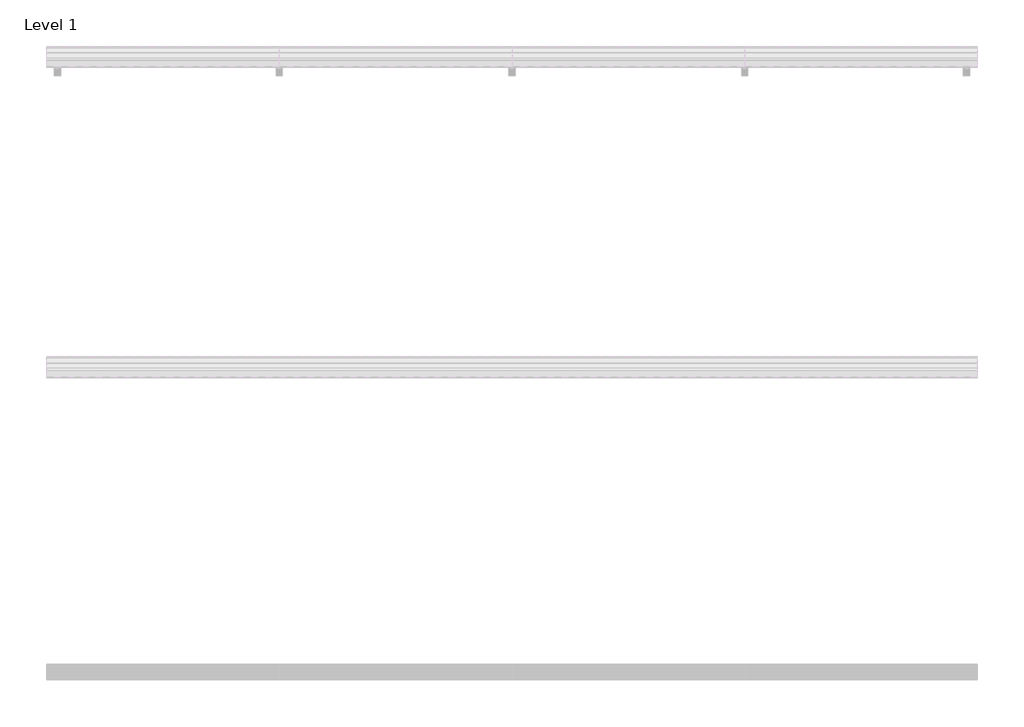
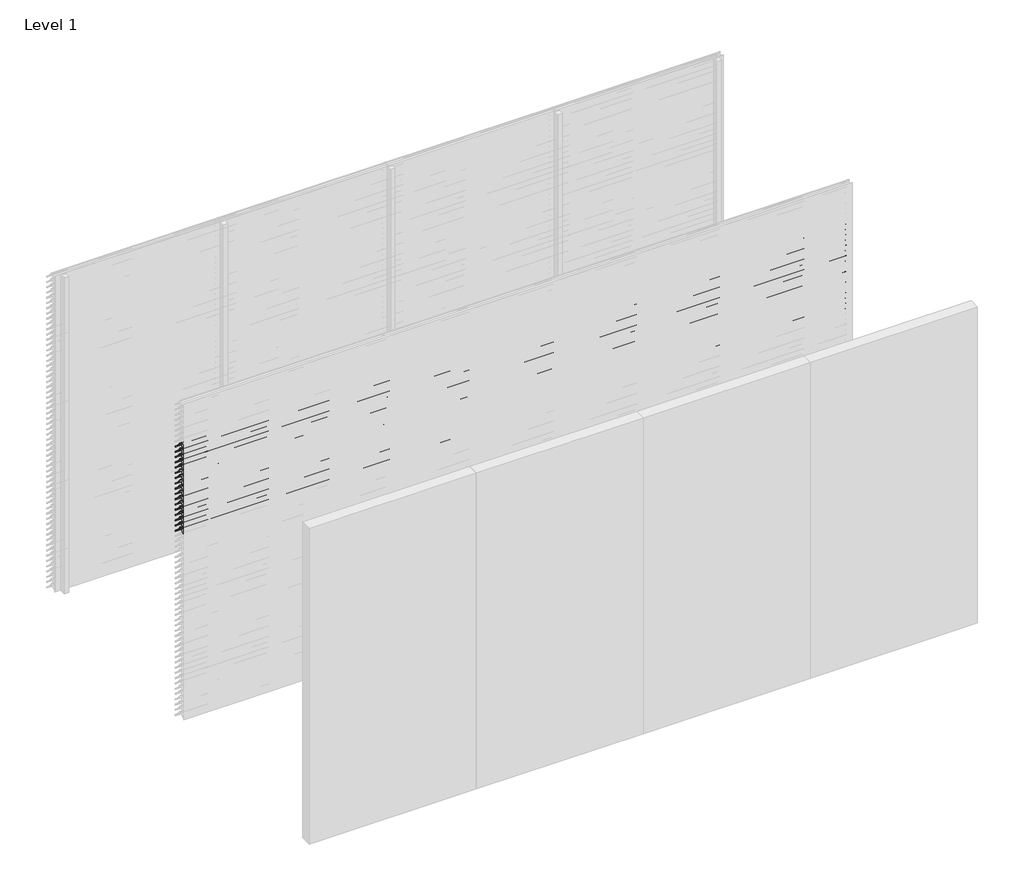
# One storey, part 72 of 173: 17 proxies.
"""IFC4 building model written with IfcOpenShell, lengths in millimetres."""

from ifc_helpers import new_model, si_unit, point, frame, frame_2d, origin, place, context, project, spatial, polyline, circle_curve, trimmed, segment, composite_curve, outline, extrude, element, save

model = new_model("IFC4")

# Units and contexts
model_context = context("Model", 3, world=origin())
ifc_project = project(units=[si_unit("LENGTHUNIT", "METRE", prefix="MILLI")], contexts=[model_context])

# Site, building, storey
site = spatial("IfcSite", under=ifc_project)
building = spatial("IfcBuilding", under=site)
storey = spatial("IfcBuildingStorey", under=building, Name="Level 1", Elevation=0.0)

# Proxies
placement = place(None, origin())
element("IfcBuildingElementProxy", 1, Name="Wall Sweeps", at=placement, inside=storey, context=model_context, shape_type="SweptSolid", body=[
    extrude(outline(composite_curve([segment(polyline([(-31998.0, 2559.1474905), (-31998.0, 2561.6227417)]), True, "CONTINUOUS"), segment(trimmed(circle_curve(frame_2d((-31951.2682172, 2516.2200208)), 65.1557103), [point((-31998.0, 2561.6227417))], [point((-31954.4014323, 2581.3003524))], False, "CARTESIAN"), True, "CONTINUOUS"), segment(polyline([(-31954.4014323, 2581.3003524), (-31934.8315836, 2581.3003524)]), True, "CONTINUOUS"), segment(trimmed(circle_curve(frame_2d((-31732.7329489, 2728.5533172)), 250.0545817), [point((-31934.8315836, 2581.3003524))], [point((-31941.4452143, 2590.8344583))], False, "CARTESIAN"), True, "CONTINUOUS"), segment(trimmed(circle_curve(frame_2d((-31953.2981792, 2585.1737835)), 13.1352966), [point((-31941.4452143, 2590.8344583))], [point((-31953.8171475, 2598.298824))], True, "CARTESIAN"), True, "CONTINUOUS"), segment(polyline([(-31953.8171475, 2598.298824), (-31953.8171475, 2600.0)]), True, "CONTINUOUS"), segment(trimmed(circle_curve(frame_2d((-31953.2981792, 2585.1737835)), 14.8352966), [point((-31953.8171475, 2600.0))], [point((-31939.9637661, 2591.6760487))], False, "CARTESIAN"), True, "CONTINUOUS"), segment(trimmed(circle_curve(frame_2d((-31732.7329489, 2728.5533172)), 248.3545817), [point((-31939.9637661, 2591.6760487))], [point((-31873.8787895, 2524.2059416))], True, "CARTESIAN"), True, "CONTINUOUS"), segment(trimmed(circle_curve(frame_2d((-31883.8147537, 2511.6649442)), 16.0), [point((-31873.8787895, 2524.2059416))], [point((-31867.8648347, 2510.4))], False, "CARTESIAN"), True, "CONTINUOUS"), segment(polyline([(-31867.8648347, 2510.4), (-31869.6712069, 2510.4)]), True, "CONTINUOUS"), segment(trimmed(circle_curve(frame_2d((-31883.8147537, 2511.6649442)), 14.2), [point((-31869.6712069, 2510.4))], [point((-31874.9518628, 2522.7594998))], True, "CARTESIAN"), True, "CONTINUOUS"), segment(trimmed(circle_curve(frame_2d((-31732.7329489, 2728.5533172)), 250.1545817), [point((-31874.9518628, 2522.7594998))], [point((-31933.7064024, 2579.6003524))], False, "CARTESIAN"), True, "CONTINUOUS"), segment(polyline([(-31933.7064024, 2579.6003524), (-31954.3602632, 2579.6003524)]), True, "CONTINUOUS"), segment(trimmed(circle_curve(frame_2d((-31951.2682172, 2516.2200208)), 63.4557103), [point((-31954.3602632, 2579.6003524))], [point((-31998.0, 2559.1474905))], True, "CARTESIAN"), True, "CONTINUOUS")], self_intersect=False)), frame((0.0, 0.0, 0.0), z_axis=(1.0, 0.0, 0.0), x_axis=(0.0, 1.0, 0.0)), (0.0, 0.0, 1.0), 6000.0),
])
element("IfcBuildingElementProxy", 2, Name="Wall Sweeps", at=placement, inside=storey, context=model_context, shape_type="SweptSolid", body=[
    extrude(outline(composite_curve([segment(polyline([(-31998.0, 2509.1474905), (-31998.0, 2511.6227417)]), True, "CONTINUOUS"), segment(trimmed(circle_curve(frame_2d((-31951.2682172, 2466.2200208)), 65.1557103), [point((-31998.0, 2511.6227417))], [point((-31954.4014323, 2531.3003524))], False, "CARTESIAN"), True, "CONTINUOUS"), segment(polyline([(-31954.4014323, 2531.3003524), (-31934.8315836, 2531.3003524)]), True, "CONTINUOUS"), segment(trimmed(circle_curve(frame_2d((-31732.7329489, 2678.5533172)), 250.0545817), [point((-31934.8315836, 2531.3003524))], [point((-31941.4452143, 2540.8344583))], False, "CARTESIAN"), True, "CONTINUOUS"), segment(trimmed(circle_curve(frame_2d((-31953.2981792, 2535.1737835)), 13.1352966), [point((-31941.4452143, 2540.8344583))], [point((-31953.8171475, 2548.298824))], True, "CARTESIAN"), True, "CONTINUOUS"), segment(polyline([(-31953.8171475, 2548.298824), (-31953.8171475, 2550.0)]), True, "CONTINUOUS"), segment(trimmed(circle_curve(frame_2d((-31953.2981792, 2535.1737835)), 14.8352966), [point((-31953.8171475, 2550.0))], [point((-31939.9637661, 2541.6760487))], False, "CARTESIAN"), True, "CONTINUOUS"), segment(trimmed(circle_curve(frame_2d((-31732.7329489, 2678.5533172)), 248.3545817), [point((-31939.9637661, 2541.6760487))], [point((-31873.8787895, 2474.2059416))], True, "CARTESIAN"), True, "CONTINUOUS"), segment(trimmed(circle_curve(frame_2d((-31883.8147537, 2461.6649442)), 16.0), [point((-31873.8787895, 2474.2059416))], [point((-31867.8648347, 2460.4))], False, "CARTESIAN"), True, "CONTINUOUS"), segment(polyline([(-31867.8648347, 2460.4), (-31869.6712069, 2460.4)]), True, "CONTINUOUS"), segment(trimmed(circle_curve(frame_2d((-31883.8147537, 2461.6649442)), 14.2), [point((-31869.6712069, 2460.4))], [point((-31874.9518628, 2472.7594998))], True, "CARTESIAN"), True, "CONTINUOUS"), segment(trimmed(circle_curve(frame_2d((-31732.7329489, 2678.5533172)), 250.1545817), [point((-31874.9518628, 2472.7594998))], [point((-31933.7064024, 2529.6003524))], False, "CARTESIAN"), True, "CONTINUOUS"), segment(polyline([(-31933.7064024, 2529.6003524), (-31954.3602632, 2529.6003524)]), True, "CONTINUOUS"), segment(trimmed(circle_curve(frame_2d((-31951.2682172, 2466.2200208)), 63.4557103), [point((-31954.3602632, 2529.6003524))], [point((-31998.0, 2509.1474905))], True, "CARTESIAN"), True, "CONTINUOUS")], self_intersect=False)), frame((0.0, 0.0, 0.0), z_axis=(1.0, 0.0, 0.0), x_axis=(0.0, 1.0, 0.0)), (0.0, 0.0, 1.0), 6000.0),
])
element("IfcBuildingElementProxy", 3, Name="Wall Sweeps", at=placement, inside=storey, context=model_context, shape_type="SweptSolid", body=[
    extrude(outline(composite_curve([segment(polyline([(-31998.0, 2459.1474905), (-31998.0, 2461.6227417)]), True, "CONTINUOUS"), segment(trimmed(circle_curve(frame_2d((-31951.2682172, 2416.2200208)), 65.1557103), [point((-31998.0, 2461.6227417))], [point((-31954.4014323, 2481.3003524))], False, "CARTESIAN"), True, "CONTINUOUS"), segment(polyline([(-31954.4014323, 2481.3003524), (-31934.8315836, 2481.3003524)]), True, "CONTINUOUS"), segment(trimmed(circle_curve(frame_2d((-31732.7329489, 2628.5533172)), 250.0545817), [point((-31934.8315836, 2481.3003524))], [point((-31941.4452143, 2490.8344583))], False, "CARTESIAN"), True, "CONTINUOUS"), segment(trimmed(circle_curve(frame_2d((-31953.2981792, 2485.1737835)), 13.1352966), [point((-31941.4452143, 2490.8344583))], [point((-31953.8171475, 2498.298824))], True, "CARTESIAN"), True, "CONTINUOUS"), segment(polyline([(-31953.8171475, 2498.298824), (-31953.8171475, 2500.0)]), True, "CONTINUOUS"), segment(trimmed(circle_curve(frame_2d((-31953.2981792, 2485.1737835)), 14.8352966), [point((-31953.8171475, 2500.0))], [point((-31939.9637661, 2491.6760487))], False, "CARTESIAN"), True, "CONTINUOUS"), segment(trimmed(circle_curve(frame_2d((-31732.7329489, 2628.5533172)), 248.3545817), [point((-31939.9637661, 2491.6760487))], [point((-31873.8787895, 2424.2059416))], True, "CARTESIAN"), True, "CONTINUOUS"), segment(trimmed(circle_curve(frame_2d((-31883.8147537, 2411.6649442)), 16.0), [point((-31873.8787895, 2424.2059416))], [point((-31867.8648347, 2410.4))], False, "CARTESIAN"), True, "CONTINUOUS"), segment(polyline([(-31867.8648347, 2410.4), (-31869.6712069, 2410.4)]), True, "CONTINUOUS"), segment(trimmed(circle_curve(frame_2d((-31883.8147537, 2411.6649442)), 14.2), [point((-31869.6712069, 2410.4))], [point((-31874.9518628, 2422.7594998))], True, "CARTESIAN"), True, "CONTINUOUS"), segment(trimmed(circle_curve(frame_2d((-31732.7329489, 2628.5533172)), 250.1545817), [point((-31874.9518628, 2422.7594998))], [point((-31933.7064024, 2479.6003524))], False, "CARTESIAN"), True, "CONTINUOUS"), segment(polyline([(-31933.7064024, 2479.6003524), (-31954.3602632, 2479.6003524)]), True, "CONTINUOUS"), segment(trimmed(circle_curve(frame_2d((-31951.2682172, 2416.2200208)), 63.4557103), [point((-31954.3602632, 2479.6003524))], [point((-31998.0, 2459.1474905))], True, "CARTESIAN"), True, "CONTINUOUS")], self_intersect=False)), frame((0.0, 0.0, 0.0), z_axis=(1.0, 0.0, 0.0), x_axis=(0.0, 1.0, 0.0)), (0.0, 0.0, 1.0), 6000.0),
])
element("IfcBuildingElementProxy", 4, Name="Wall Sweeps", at=placement, inside=storey, context=model_context, shape_type="SweptSolid", body=[
    extrude(outline(composite_curve([segment(polyline([(-31998.0, 2409.1474905), (-31998.0, 2411.6227417)]), True, "CONTINUOUS"), segment(trimmed(circle_curve(frame_2d((-31951.2682172, 2366.2200208)), 65.1557103), [point((-31998.0, 2411.6227417))], [point((-31954.4014323, 2431.3003524))], False, "CARTESIAN"), True, "CONTINUOUS"), segment(polyline([(-31954.4014323, 2431.3003524), (-31934.8315836, 2431.3003524)]), True, "CONTINUOUS"), segment(trimmed(circle_curve(frame_2d((-31732.7329489, 2578.5533172)), 250.0545817), [point((-31934.8315836, 2431.3003524))], [point((-31941.4452143, 2440.8344583))], False, "CARTESIAN"), True, "CONTINUOUS"), segment(trimmed(circle_curve(frame_2d((-31953.2981792, 2435.1737835)), 13.1352966), [point((-31941.4452143, 2440.8344583))], [point((-31953.8171475, 2448.298824))], True, "CARTESIAN"), True, "CONTINUOUS"), segment(polyline([(-31953.8171475, 2448.298824), (-31953.8171475, 2450.0)]), True, "CONTINUOUS"), segment(trimmed(circle_curve(frame_2d((-31953.2981792, 2435.1737835)), 14.8352966), [point((-31953.8171475, 2450.0))], [point((-31939.9637661, 2441.6760487))], False, "CARTESIAN"), True, "CONTINUOUS"), segment(trimmed(circle_curve(frame_2d((-31732.7329489, 2578.5533172)), 248.3545817), [point((-31939.9637661, 2441.6760487))], [point((-31873.8787895, 2374.2059416))], True, "CARTESIAN"), True, "CONTINUOUS"), segment(trimmed(circle_curve(frame_2d((-31883.8147537, 2361.6649442)), 16.0), [point((-31873.8787895, 2374.2059416))], [point((-31867.8648347, 2360.4))], False, "CARTESIAN"), True, "CONTINUOUS"), segment(polyline([(-31867.8648347, 2360.4), (-31869.6712069, 2360.4)]), True, "CONTINUOUS"), segment(trimmed(circle_curve(frame_2d((-31883.8147537, 2361.6649442)), 14.2), [point((-31869.6712069, 2360.4))], [point((-31874.9518628, 2372.7594998))], True, "CARTESIAN"), True, "CONTINUOUS"), segment(trimmed(circle_curve(frame_2d((-31732.7329489, 2578.5533172)), 250.1545817), [point((-31874.9518628, 2372.7594998))], [point((-31933.7064024, 2429.6003524))], False, "CARTESIAN"), True, "CONTINUOUS"), segment(polyline([(-31933.7064024, 2429.6003524), (-31954.3602632, 2429.6003524)]), True, "CONTINUOUS"), segment(trimmed(circle_curve(frame_2d((-31951.2682172, 2366.2200208)), 63.4557103), [point((-31954.3602632, 2429.6003524))], [point((-31998.0, 2409.1474905))], True, "CARTESIAN"), True, "CONTINUOUS")], self_intersect=False)), frame((0.0, 0.0, 0.0), z_axis=(1.0, 0.0, 0.0), x_axis=(0.0, 1.0, 0.0)), (0.0, 0.0, 1.0), 6000.0),
])
element("IfcBuildingElementProxy", 5, Name="Wall Sweeps", at=placement, inside=storey, context=model_context, shape_type="SweptSolid", body=[
    extrude(outline(composite_curve([segment(polyline([(-31998.0, 2359.1474905), (-31998.0, 2361.6227417)]), True, "CONTINUOUS"), segment(trimmed(circle_curve(frame_2d((-31951.2682172, 2316.2200208)), 65.1557103), [point((-31998.0, 2361.6227417))], [point((-31954.4014323, 2381.3003524))], False, "CARTESIAN"), True, "CONTINUOUS"), segment(polyline([(-31954.4014323, 2381.3003524), (-31934.8315836, 2381.3003524)]), True, "CONTINUOUS"), segment(trimmed(circle_curve(frame_2d((-31732.7329489, 2528.5533172)), 250.0545817), [point((-31934.8315836, 2381.3003524))], [point((-31941.4452143, 2390.8344583))], False, "CARTESIAN"), True, "CONTINUOUS"), segment(trimmed(circle_curve(frame_2d((-31953.2981792, 2385.1737835)), 13.1352966), [point((-31941.4452143, 2390.8344583))], [point((-31953.8171475, 2398.298824))], True, "CARTESIAN"), True, "CONTINUOUS"), segment(polyline([(-31953.8171475, 2398.298824), (-31953.8171475, 2400.0)]), True, "CONTINUOUS"), segment(trimmed(circle_curve(frame_2d((-31953.2981792, 2385.1737835)), 14.8352966), [point((-31953.8171475, 2400.0))], [point((-31939.9637661, 2391.6760487))], False, "CARTESIAN"), True, "CONTINUOUS"), segment(trimmed(circle_curve(frame_2d((-31732.7329489, 2528.5533172)), 248.3545817), [point((-31939.9637661, 2391.6760487))], [point((-31873.8787895, 2324.2059416))], True, "CARTESIAN"), True, "CONTINUOUS"), segment(trimmed(circle_curve(frame_2d((-31883.8147537, 2311.6649442)), 16.0), [point((-31873.8787895, 2324.2059416))], [point((-31867.8648347, 2310.4))], False, "CARTESIAN"), True, "CONTINUOUS"), segment(polyline([(-31867.8648347, 2310.4), (-31869.6712069, 2310.4)]), True, "CONTINUOUS"), segment(trimmed(circle_curve(frame_2d((-31883.8147537, 2311.6649442)), 14.2), [point((-31869.6712069, 2310.4))], [point((-31874.9518628, 2322.7594998))], True, "CARTESIAN"), True, "CONTINUOUS"), segment(trimmed(circle_curve(frame_2d((-31732.7329489, 2528.5533172)), 250.1545817), [point((-31874.9518628, 2322.7594998))], [point((-31933.7064024, 2379.6003524))], False, "CARTESIAN"), True, "CONTINUOUS"), segment(polyline([(-31933.7064024, 2379.6003524), (-31954.3602632, 2379.6003524)]), True, "CONTINUOUS"), segment(trimmed(circle_curve(frame_2d((-31951.2682172, 2316.2200208)), 63.4557103), [point((-31954.3602632, 2379.6003524))], [point((-31998.0, 2359.1474905))], True, "CARTESIAN"), True, "CONTINUOUS")], self_intersect=False)), frame((0.0, 0.0, 0.0), z_axis=(1.0, 0.0, 0.0), x_axis=(0.0, 1.0, 0.0)), (0.0, 0.0, 1.0), 6000.0),
])
element("IfcBuildingElementProxy", 6, Name="Wall Sweeps", at=placement, inside=storey, context=model_context, shape_type="SweptSolid", body=[
    extrude(outline(composite_curve([segment(polyline([(-31998.0, 2309.1474905), (-31998.0, 2311.6227417)]), True, "CONTINUOUS"), segment(trimmed(circle_curve(frame_2d((-31951.2682172, 2266.2200208)), 65.1557103), [point((-31998.0, 2311.6227417))], [point((-31954.4014323, 2331.3003524))], False, "CARTESIAN"), True, "CONTINUOUS"), segment(polyline([(-31954.4014323, 2331.3003524), (-31934.8315836, 2331.3003524)]), True, "CONTINUOUS"), segment(trimmed(circle_curve(frame_2d((-31732.7329489, 2478.5533172)), 250.0545817), [point((-31934.8315836, 2331.3003524))], [point((-31941.4452143, 2340.8344583))], False, "CARTESIAN"), True, "CONTINUOUS"), segment(trimmed(circle_curve(frame_2d((-31953.2981792, 2335.1737835)), 13.1352966), [point((-31941.4452143, 2340.8344583))], [point((-31953.8171475, 2348.298824))], True, "CARTESIAN"), True, "CONTINUOUS"), segment(polyline([(-31953.8171475, 2348.298824), (-31953.8171475, 2350.0)]), True, "CONTINUOUS"), segment(trimmed(circle_curve(frame_2d((-31953.2981792, 2335.1737835)), 14.8352966), [point((-31953.8171475, 2350.0))], [point((-31939.9637661, 2341.6760487))], False, "CARTESIAN"), True, "CONTINUOUS"), segment(trimmed(circle_curve(frame_2d((-31732.7329489, 2478.5533172)), 248.3545817), [point((-31939.9637661, 2341.6760487))], [point((-31873.8787895, 2274.2059416))], True, "CARTESIAN"), True, "CONTINUOUS"), segment(trimmed(circle_curve(frame_2d((-31883.8147537, 2261.6649442)), 16.0), [point((-31873.8787895, 2274.2059416))], [point((-31867.8648347, 2260.4))], False, "CARTESIAN"), True, "CONTINUOUS"), segment(polyline([(-31867.8648347, 2260.4), (-31869.6712069, 2260.4)]), True, "CONTINUOUS"), segment(trimmed(circle_curve(frame_2d((-31883.8147537, 2261.6649442)), 14.2), [point((-31869.6712069, 2260.4))], [point((-31874.9518628, 2272.7594998))], True, "CARTESIAN"), True, "CONTINUOUS"), segment(trimmed(circle_curve(frame_2d((-31732.7329489, 2478.5533172)), 250.1545817), [point((-31874.9518628, 2272.7594998))], [point((-31933.7064024, 2329.6003524))], False, "CARTESIAN"), True, "CONTINUOUS"), segment(polyline([(-31933.7064024, 2329.6003524), (-31954.3602632, 2329.6003524)]), True, "CONTINUOUS"), segment(trimmed(circle_curve(frame_2d((-31951.2682172, 2266.2200208)), 63.4557103), [point((-31954.3602632, 2329.6003524))], [point((-31998.0, 2309.1474905))], True, "CARTESIAN"), True, "CONTINUOUS")], self_intersect=False)), frame((0.0, 0.0, 0.0), z_axis=(1.0, 0.0, 0.0), x_axis=(0.0, 1.0, 0.0)), (0.0, 0.0, 1.0), 6000.0),
])
element("IfcBuildingElementProxy", 7, Name="Wall Sweeps", at=placement, inside=storey, context=model_context, shape_type="SweptSolid", body=[
    extrude(outline(composite_curve([segment(polyline([(-31998.0, 2259.1474905), (-31998.0, 2261.6227417)]), True, "CONTINUOUS"), segment(trimmed(circle_curve(frame_2d((-31951.2682172, 2216.2200208)), 65.1557103), [point((-31998.0, 2261.6227417))], [point((-31954.4014323, 2281.3003524))], False, "CARTESIAN"), True, "CONTINUOUS"), segment(polyline([(-31954.4014323, 2281.3003524), (-31934.8315836, 2281.3003524)]), True, "CONTINUOUS"), segment(trimmed(circle_curve(frame_2d((-31732.7329489, 2428.5533172)), 250.0545817), [point((-31934.8315836, 2281.3003524))], [point((-31941.4452143, 2290.8344583))], False, "CARTESIAN"), True, "CONTINUOUS"), segment(trimmed(circle_curve(frame_2d((-31953.2981792, 2285.1737835)), 13.1352966), [point((-31941.4452143, 2290.8344583))], [point((-31953.8171475, 2298.298824))], True, "CARTESIAN"), True, "CONTINUOUS"), segment(polyline([(-31953.8171475, 2298.298824), (-31953.8171475, 2300.0)]), True, "CONTINUOUS"), segment(trimmed(circle_curve(frame_2d((-31953.2981792, 2285.1737835)), 14.8352966), [point((-31953.8171475, 2300.0))], [point((-31939.9637661, 2291.6760487))], False, "CARTESIAN"), True, "CONTINUOUS"), segment(trimmed(circle_curve(frame_2d((-31732.7329489, 2428.5533172)), 248.3545817), [point((-31939.9637661, 2291.6760487))], [point((-31873.8787895, 2224.2059416))], True, "CARTESIAN"), True, "CONTINUOUS"), segment(trimmed(circle_curve(frame_2d((-31883.8147537, 2211.6649442)), 16.0), [point((-31873.8787895, 2224.2059416))], [point((-31867.8648347, 2210.4))], False, "CARTESIAN"), True, "CONTINUOUS"), segment(polyline([(-31867.8648347, 2210.4), (-31869.6712069, 2210.4)]), True, "CONTINUOUS"), segment(trimmed(circle_curve(frame_2d((-31883.8147537, 2211.6649442)), 14.2), [point((-31869.6712069, 2210.4))], [point((-31874.9518628, 2222.7594998))], True, "CARTESIAN"), True, "CONTINUOUS"), segment(trimmed(circle_curve(frame_2d((-31732.7329489, 2428.5533172)), 250.1545817), [point((-31874.9518628, 2222.7594998))], [point((-31933.7064024, 2279.6003524))], False, "CARTESIAN"), True, "CONTINUOUS"), segment(polyline([(-31933.7064024, 2279.6003524), (-31954.3602632, 2279.6003524)]), True, "CONTINUOUS"), segment(trimmed(circle_curve(frame_2d((-31951.2682172, 2216.2200208)), 63.4557103), [point((-31954.3602632, 2279.6003524))], [point((-31998.0, 2259.1474905))], True, "CARTESIAN"), True, "CONTINUOUS")], self_intersect=False)), frame((0.0, 0.0, 0.0), z_axis=(1.0, 0.0, 0.0), x_axis=(0.0, 1.0, 0.0)), (0.0, 0.0, 1.0), 6000.0),
])
element("IfcBuildingElementProxy", 8, Name="Wall Sweeps", at=placement, inside=storey, context=model_context, shape_type="SweptSolid", body=[
    extrude(outline(composite_curve([segment(polyline([(-31998.0, 2209.1474905), (-31998.0, 2211.6227417)]), True, "CONTINUOUS"), segment(trimmed(circle_curve(frame_2d((-31951.2682172, 2166.2200208)), 65.1557103), [point((-31998.0, 2211.6227417))], [point((-31954.4014323, 2231.3003524))], False, "CARTESIAN"), True, "CONTINUOUS"), segment(polyline([(-31954.4014323, 2231.3003524), (-31934.8315836, 2231.3003524)]), True, "CONTINUOUS"), segment(trimmed(circle_curve(frame_2d((-31732.7329489, 2378.5533172)), 250.0545817), [point((-31934.8315836, 2231.3003524))], [point((-31941.4452143, 2240.8344583))], False, "CARTESIAN"), True, "CONTINUOUS"), segment(trimmed(circle_curve(frame_2d((-31953.2981792, 2235.1737835)), 13.1352966), [point((-31941.4452143, 2240.8344583))], [point((-31953.8171475, 2248.298824))], True, "CARTESIAN"), True, "CONTINUOUS"), segment(polyline([(-31953.8171475, 2248.298824), (-31953.8171475, 2250.0)]), True, "CONTINUOUS"), segment(trimmed(circle_curve(frame_2d((-31953.2981792, 2235.1737835)), 14.8352966), [point((-31953.8171475, 2250.0))], [point((-31939.9637661, 2241.6760487))], False, "CARTESIAN"), True, "CONTINUOUS"), segment(trimmed(circle_curve(frame_2d((-31732.7329489, 2378.5533172)), 248.3545817), [point((-31939.9637661, 2241.6760487))], [point((-31873.8787895, 2174.2059416))], True, "CARTESIAN"), True, "CONTINUOUS"), segment(trimmed(circle_curve(frame_2d((-31883.8147537, 2161.6649442)), 16.0), [point((-31873.8787895, 2174.2059416))], [point((-31867.8648347, 2160.4))], False, "CARTESIAN"), True, "CONTINUOUS"), segment(polyline([(-31867.8648347, 2160.4), (-31869.6712069, 2160.4)]), True, "CONTINUOUS"), segment(trimmed(circle_curve(frame_2d((-31883.8147537, 2161.6649442)), 14.2), [point((-31869.6712069, 2160.4))], [point((-31874.9518628, 2172.7594998))], True, "CARTESIAN"), True, "CONTINUOUS"), segment(trimmed(circle_curve(frame_2d((-31732.7329489, 2378.5533172)), 250.1545817), [point((-31874.9518628, 2172.7594998))], [point((-31933.7064024, 2229.6003524))], False, "CARTESIAN"), True, "CONTINUOUS"), segment(polyline([(-31933.7064024, 2229.6003524), (-31954.3602632, 2229.6003524)]), True, "CONTINUOUS"), segment(trimmed(circle_curve(frame_2d((-31951.2682172, 2166.2200208)), 63.4557103), [point((-31954.3602632, 2229.6003524))], [point((-31998.0, 2209.1474905))], True, "CARTESIAN"), True, "CONTINUOUS")], self_intersect=False)), frame((0.0, 0.0, 0.0), z_axis=(1.0, 0.0, 0.0), x_axis=(0.0, 1.0, 0.0)), (0.0, 0.0, 1.0), 6000.0),
])
element("IfcBuildingElementProxy", 9, Name="Wall Sweeps", at=placement, inside=storey, context=model_context, shape_type="SweptSolid", body=[
    extrude(outline(composite_curve([segment(polyline([(-31998.0, 2159.1474905), (-31998.0, 2161.6227417)]), True, "CONTINUOUS"), segment(trimmed(circle_curve(frame_2d((-31951.2682172, 2116.2200208)), 65.1557103), [point((-31998.0, 2161.6227417))], [point((-31954.4014323, 2181.3003524))], False, "CARTESIAN"), True, "CONTINUOUS"), segment(polyline([(-31954.4014323, 2181.3003524), (-31934.8315836, 2181.3003524)]), True, "CONTINUOUS"), segment(trimmed(circle_curve(frame_2d((-31732.7329489, 2328.5533172)), 250.0545817), [point((-31934.8315836, 2181.3003524))], [point((-31941.4452143, 2190.8344583))], False, "CARTESIAN"), True, "CONTINUOUS"), segment(trimmed(circle_curve(frame_2d((-31953.2981792, 2185.1737835)), 13.1352966), [point((-31941.4452143, 2190.8344583))], [point((-31953.8171475, 2198.298824))], True, "CARTESIAN"), True, "CONTINUOUS"), segment(polyline([(-31953.8171475, 2198.298824), (-31953.8171475, 2200.0)]), True, "CONTINUOUS"), segment(trimmed(circle_curve(frame_2d((-31953.2981792, 2185.1737835)), 14.8352966), [point((-31953.8171475, 2200.0))], [point((-31939.9637661, 2191.6760487))], False, "CARTESIAN"), True, "CONTINUOUS"), segment(trimmed(circle_curve(frame_2d((-31732.7329489, 2328.5533172)), 248.3545817), [point((-31939.9637661, 2191.6760487))], [point((-31873.8787895, 2124.2059416))], True, "CARTESIAN"), True, "CONTINUOUS"), segment(trimmed(circle_curve(frame_2d((-31883.8147537, 2111.6649442)), 16.0), [point((-31873.8787895, 2124.2059416))], [point((-31867.8648347, 2110.4))], False, "CARTESIAN"), True, "CONTINUOUS"), segment(polyline([(-31867.8648347, 2110.4), (-31869.6712069, 2110.4)]), True, "CONTINUOUS"), segment(trimmed(circle_curve(frame_2d((-31883.8147537, 2111.6649442)), 14.2), [point((-31869.6712069, 2110.4))], [point((-31874.9518628, 2122.7594998))], True, "CARTESIAN"), True, "CONTINUOUS"), segment(trimmed(circle_curve(frame_2d((-31732.7329489, 2328.5533172)), 250.1545817), [point((-31874.9518628, 2122.7594998))], [point((-31933.7064024, 2179.6003524))], False, "CARTESIAN"), True, "CONTINUOUS"), segment(polyline([(-31933.7064024, 2179.6003524), (-31954.3602632, 2179.6003524)]), True, "CONTINUOUS"), segment(trimmed(circle_curve(frame_2d((-31951.2682172, 2116.2200208)), 63.4557103), [point((-31954.3602632, 2179.6003524))], [point((-31998.0, 2159.1474905))], True, "CARTESIAN"), True, "CONTINUOUS")], self_intersect=False)), frame((0.0, 0.0, 0.0), z_axis=(1.0, 0.0, 0.0), x_axis=(0.0, 1.0, 0.0)), (0.0, 0.0, 1.0), 6000.0),
])
element("IfcBuildingElementProxy", 10, Name="Wall Sweeps", at=placement, inside=storey, context=model_context, shape_type="SweptSolid", body=[
    extrude(outline(composite_curve([segment(polyline([(-31998.0, 2109.1474905), (-31998.0, 2111.6227417)]), True, "CONTINUOUS"), segment(trimmed(circle_curve(frame_2d((-31951.2682172, 2066.2200208)), 65.1557103), [point((-31998.0, 2111.6227417))], [point((-31954.4014323, 2131.3003524))], False, "CARTESIAN"), True, "CONTINUOUS"), segment(polyline([(-31954.4014323, 2131.3003524), (-31934.8315836, 2131.3003524)]), True, "CONTINUOUS"), segment(trimmed(circle_curve(frame_2d((-31732.7329489, 2278.5533172)), 250.0545817), [point((-31934.8315836, 2131.3003524))], [point((-31941.4452143, 2140.8344583))], False, "CARTESIAN"), True, "CONTINUOUS"), segment(trimmed(circle_curve(frame_2d((-31953.2981792, 2135.1737835)), 13.1352966), [point((-31941.4452143, 2140.8344583))], [point((-31953.8171475, 2148.298824))], True, "CARTESIAN"), True, "CONTINUOUS"), segment(polyline([(-31953.8171475, 2148.298824), (-31953.8171475, 2150.0)]), True, "CONTINUOUS"), segment(trimmed(circle_curve(frame_2d((-31953.2981792, 2135.1737835)), 14.8352966), [point((-31953.8171475, 2150.0))], [point((-31939.9637661, 2141.6760487))], False, "CARTESIAN"), True, "CONTINUOUS"), segment(trimmed(circle_curve(frame_2d((-31732.7329489, 2278.5533172)), 248.3545817), [point((-31939.9637661, 2141.6760487))], [point((-31873.8787895, 2074.2059416))], True, "CARTESIAN"), True, "CONTINUOUS"), segment(trimmed(circle_curve(frame_2d((-31883.8147537, 2061.6649442)), 16.0), [point((-31873.8787895, 2074.2059416))], [point((-31867.8648347, 2060.4))], False, "CARTESIAN"), True, "CONTINUOUS"), segment(polyline([(-31867.8648347, 2060.4), (-31869.6712069, 2060.4)]), True, "CONTINUOUS"), segment(trimmed(circle_curve(frame_2d((-31883.8147537, 2061.6649442)), 14.2), [point((-31869.6712069, 2060.4))], [point((-31874.9518628, 2072.7594998))], True, "CARTESIAN"), True, "CONTINUOUS"), segment(trimmed(circle_curve(frame_2d((-31732.7329489, 2278.5533172)), 250.1545817), [point((-31874.9518628, 2072.7594998))], [point((-31933.7064024, 2129.6003524))], False, "CARTESIAN"), True, "CONTINUOUS"), segment(polyline([(-31933.7064024, 2129.6003524), (-31954.3602632, 2129.6003524)]), True, "CONTINUOUS"), segment(trimmed(circle_curve(frame_2d((-31951.2682172, 2066.2200208)), 63.4557103), [point((-31954.3602632, 2129.6003524))], [point((-31998.0, 2109.1474905))], True, "CARTESIAN"), True, "CONTINUOUS")], self_intersect=False)), frame((0.0, 0.0, 0.0), z_axis=(1.0, 0.0, 0.0), x_axis=(0.0, 1.0, 0.0)), (0.0, 0.0, 1.0), 6000.0),
])
element("IfcBuildingElementProxy", 11, Name="Wall Sweeps", at=placement, inside=storey, context=model_context, shape_type="SweptSolid", body=[
    extrude(outline(composite_curve([segment(polyline([(-31998.0, 2059.1474905), (-31998.0, 2061.6227417)]), True, "CONTINUOUS"), segment(trimmed(circle_curve(frame_2d((-31951.2682172, 2016.2200208)), 65.1557103), [point((-31998.0, 2061.6227417))], [point((-31954.4014323, 2081.3003524))], False, "CARTESIAN"), True, "CONTINUOUS"), segment(polyline([(-31954.4014323, 2081.3003524), (-31934.8315836, 2081.3003524)]), True, "CONTINUOUS"), segment(trimmed(circle_curve(frame_2d((-31732.7329489, 2228.5533172)), 250.0545817), [point((-31934.8315836, 2081.3003524))], [point((-31941.4452143, 2090.8344583))], False, "CARTESIAN"), True, "CONTINUOUS"), segment(trimmed(circle_curve(frame_2d((-31953.2981792, 2085.1737835)), 13.1352966), [point((-31941.4452143, 2090.8344583))], [point((-31953.8171475, 2098.298824))], True, "CARTESIAN"), True, "CONTINUOUS"), segment(polyline([(-31953.8171475, 2098.298824), (-31953.8171475, 2100.0)]), True, "CONTINUOUS"), segment(trimmed(circle_curve(frame_2d((-31953.2981792, 2085.1737835)), 14.8352966), [point((-31953.8171475, 2100.0))], [point((-31939.9637661, 2091.6760487))], False, "CARTESIAN"), True, "CONTINUOUS"), segment(trimmed(circle_curve(frame_2d((-31732.7329489, 2228.5533172)), 248.3545817), [point((-31939.9637661, 2091.6760487))], [point((-31873.8787895, 2024.2059416))], True, "CARTESIAN"), True, "CONTINUOUS"), segment(trimmed(circle_curve(frame_2d((-31883.8147537, 2011.6649442)), 16.0), [point((-31873.8787895, 2024.2059416))], [point((-31867.8648347, 2010.4))], False, "CARTESIAN"), True, "CONTINUOUS"), segment(polyline([(-31867.8648347, 2010.4), (-31869.6712069, 2010.4)]), True, "CONTINUOUS"), segment(trimmed(circle_curve(frame_2d((-31883.8147537, 2011.6649442)), 14.2), [point((-31869.6712069, 2010.4))], [point((-31874.9518628, 2022.7594998))], True, "CARTESIAN"), True, "CONTINUOUS"), segment(trimmed(circle_curve(frame_2d((-31732.7329489, 2228.5533172)), 250.1545817), [point((-31874.9518628, 2022.7594998))], [point((-31933.7064024, 2079.6003524))], False, "CARTESIAN"), True, "CONTINUOUS"), segment(polyline([(-31933.7064024, 2079.6003524), (-31954.3602632, 2079.6003524)]), True, "CONTINUOUS"), segment(trimmed(circle_curve(frame_2d((-31951.2682172, 2016.2200208)), 63.4557103), [point((-31954.3602632, 2079.6003524))], [point((-31998.0, 2059.1474905))], True, "CARTESIAN"), True, "CONTINUOUS")], self_intersect=False)), frame((0.0, 0.0, 0.0), z_axis=(1.0, 0.0, 0.0), x_axis=(0.0, 1.0, 0.0)), (0.0, 0.0, 1.0), 6000.0),
])
element("IfcBuildingElementProxy", 12, Name="Wall Sweeps", at=placement, inside=storey, context=model_context, shape_type="SweptSolid", body=[
    extrude(outline(composite_curve([segment(polyline([(-31998.0, 2009.1474905), (-31998.0, 2011.6227417)]), True, "CONTINUOUS"), segment(trimmed(circle_curve(frame_2d((-31951.2682172, 1966.2200208)), 65.1557103), [point((-31998.0, 2011.6227417))], [point((-31954.4014323, 2031.3003524))], False, "CARTESIAN"), True, "CONTINUOUS"), segment(polyline([(-31954.4014323, 2031.3003524), (-31934.8315836, 2031.3003524)]), True, "CONTINUOUS"), segment(trimmed(circle_curve(frame_2d((-31732.7329489, 2178.5533172)), 250.0545817), [point((-31934.8315836, 2031.3003524))], [point((-31941.4452143, 2040.8344583))], False, "CARTESIAN"), True, "CONTINUOUS"), segment(trimmed(circle_curve(frame_2d((-31953.2981792, 2035.1737835)), 13.1352966), [point((-31941.4452143, 2040.8344583))], [point((-31953.8171475, 2048.298824))], True, "CARTESIAN"), True, "CONTINUOUS"), segment(polyline([(-31953.8171475, 2048.298824), (-31953.8171475, 2050.0)]), True, "CONTINUOUS"), segment(trimmed(circle_curve(frame_2d((-31953.2981792, 2035.1737835)), 14.8352966), [point((-31953.8171475, 2050.0))], [point((-31939.9637661, 2041.6760487))], False, "CARTESIAN"), True, "CONTINUOUS"), segment(trimmed(circle_curve(frame_2d((-31732.7329489, 2178.5533172)), 248.3545817), [point((-31939.9637661, 2041.6760487))], [point((-31873.8787895, 1974.2059416))], True, "CARTESIAN"), True, "CONTINUOUS"), segment(trimmed(circle_curve(frame_2d((-31883.8147537, 1961.6649442)), 16.0), [point((-31873.8787895, 1974.2059416))], [point((-31867.8648347, 1960.4))], False, "CARTESIAN"), True, "CONTINUOUS"), segment(polyline([(-31867.8648347, 1960.4), (-31869.6712069, 1960.4)]), True, "CONTINUOUS"), segment(trimmed(circle_curve(frame_2d((-31883.8147537, 1961.6649442)), 14.2), [point((-31869.6712069, 1960.4))], [point((-31874.9518628, 1972.7594998))], True, "CARTESIAN"), True, "CONTINUOUS"), segment(trimmed(circle_curve(frame_2d((-31732.7329489, 2178.5533172)), 250.1545817), [point((-31874.9518628, 1972.7594998))], [point((-31933.7064024, 2029.6003524))], False, "CARTESIAN"), True, "CONTINUOUS"), segment(polyline([(-31933.7064024, 2029.6003524), (-31954.3602632, 2029.6003524)]), True, "CONTINUOUS"), segment(trimmed(circle_curve(frame_2d((-31951.2682172, 1966.2200208)), 63.4557103), [point((-31954.3602632, 2029.6003524))], [point((-31998.0, 2009.1474905))], True, "CARTESIAN"), True, "CONTINUOUS")], self_intersect=False)), frame((0.0, 0.0, 0.0), z_axis=(1.0, 0.0, 0.0), x_axis=(0.0, 1.0, 0.0)), (0.0, 0.0, 1.0), 6000.0),
])
element("IfcBuildingElementProxy", 13, Name="Wall Sweeps", at=placement, inside=storey, context=model_context, shape_type="SweptSolid", body=[
    extrude(outline(composite_curve([segment(polyline([(-31998.0, 1959.1474905), (-31998.0, 1961.6227417)]), True, "CONTINUOUS"), segment(trimmed(circle_curve(frame_2d((-31951.2682172, 1916.2200208)), 65.1557103), [point((-31998.0, 1961.6227417))], [point((-31954.4014323, 1981.3003524))], False, "CARTESIAN"), True, "CONTINUOUS"), segment(polyline([(-31954.4014323, 1981.3003524), (-31934.8315836, 1981.3003524)]), True, "CONTINUOUS"), segment(trimmed(circle_curve(frame_2d((-31732.7329489, 2128.5533172)), 250.0545817), [point((-31934.8315836, 1981.3003524))], [point((-31941.4452143, 1990.8344583))], False, "CARTESIAN"), True, "CONTINUOUS"), segment(trimmed(circle_curve(frame_2d((-31953.2981792, 1985.1737835)), 13.1352966), [point((-31941.4452143, 1990.8344583))], [point((-31953.8171475, 1998.298824))], True, "CARTESIAN"), True, "CONTINUOUS"), segment(polyline([(-31953.8171475, 1998.298824), (-31953.8171475, 2000.0)]), True, "CONTINUOUS"), segment(trimmed(circle_curve(frame_2d((-31953.2981792, 1985.1737835)), 14.8352966), [point((-31953.8171475, 2000.0))], [point((-31939.9637661, 1991.6760487))], False, "CARTESIAN"), True, "CONTINUOUS"), segment(trimmed(circle_curve(frame_2d((-31732.7329489, 2128.5533172)), 248.3545817), [point((-31939.9637661, 1991.6760487))], [point((-31873.8787895, 1924.2059416))], True, "CARTESIAN"), True, "CONTINUOUS"), segment(trimmed(circle_curve(frame_2d((-31883.8147537, 1911.6649442)), 16.0), [point((-31873.8787895, 1924.2059416))], [point((-31867.8648347, 1910.4))], False, "CARTESIAN"), True, "CONTINUOUS"), segment(polyline([(-31867.8648347, 1910.4), (-31869.6712069, 1910.4)]), True, "CONTINUOUS"), segment(trimmed(circle_curve(frame_2d((-31883.8147537, 1911.6649442)), 14.2), [point((-31869.6712069, 1910.4))], [point((-31874.9518628, 1922.7594998))], True, "CARTESIAN"), True, "CONTINUOUS"), segment(trimmed(circle_curve(frame_2d((-31732.7329489, 2128.5533172)), 250.1545817), [point((-31874.9518628, 1922.7594998))], [point((-31933.7064024, 1979.6003524))], False, "CARTESIAN"), True, "CONTINUOUS"), segment(polyline([(-31933.7064024, 1979.6003524), (-31954.3602632, 1979.6003524)]), True, "CONTINUOUS"), segment(trimmed(circle_curve(frame_2d((-31951.2682172, 1916.2200208)), 63.4557103), [point((-31954.3602632, 1979.6003524))], [point((-31998.0, 1959.1474905))], True, "CARTESIAN"), True, "CONTINUOUS")], self_intersect=False)), frame((0.0, 0.0, 0.0), z_axis=(1.0, 0.0, 0.0), x_axis=(0.0, 1.0, 0.0)), (0.0, 0.0, 1.0), 6000.0),
])
element("IfcBuildingElementProxy", 14, Name="Wall Sweeps", at=placement, inside=storey, context=model_context, shape_type="SweptSolid", body=[
    extrude(outline(composite_curve([segment(polyline([(-31998.0, 1909.1474905), (-31998.0, 1911.6227417)]), True, "CONTINUOUS"), segment(trimmed(circle_curve(frame_2d((-31951.2682172, 1866.2200208)), 65.1557103), [point((-31998.0, 1911.6227417))], [point((-31954.4014323, 1931.3003524))], False, "CARTESIAN"), True, "CONTINUOUS"), segment(polyline([(-31954.4014323, 1931.3003524), (-31934.8315836, 1931.3003524)]), True, "CONTINUOUS"), segment(trimmed(circle_curve(frame_2d((-31732.7329489, 2078.5533172)), 250.0545817), [point((-31934.8315836, 1931.3003524))], [point((-31941.4452143, 1940.8344583))], False, "CARTESIAN"), True, "CONTINUOUS"), segment(trimmed(circle_curve(frame_2d((-31953.2981792, 1935.1737835)), 13.1352966), [point((-31941.4452143, 1940.8344583))], [point((-31953.8171475, 1948.298824))], True, "CARTESIAN"), True, "CONTINUOUS"), segment(polyline([(-31953.8171475, 1948.298824), (-31953.8171475, 1950.0)]), True, "CONTINUOUS"), segment(trimmed(circle_curve(frame_2d((-31953.2981792, 1935.1737835)), 14.8352966), [point((-31953.8171475, 1950.0))], [point((-31939.9637661, 1941.6760487))], False, "CARTESIAN"), True, "CONTINUOUS"), segment(trimmed(circle_curve(frame_2d((-31732.7329489, 2078.5533172)), 248.3545817), [point((-31939.9637661, 1941.6760487))], [point((-31873.8787895, 1874.2059416))], True, "CARTESIAN"), True, "CONTINUOUS"), segment(trimmed(circle_curve(frame_2d((-31883.8147537, 1861.6649442)), 16.0), [point((-31873.8787895, 1874.2059416))], [point((-31867.8648347, 1860.4))], False, "CARTESIAN"), True, "CONTINUOUS"), segment(polyline([(-31867.8648347, 1860.4), (-31869.6712069, 1860.4)]), True, "CONTINUOUS"), segment(trimmed(circle_curve(frame_2d((-31883.8147537, 1861.6649442)), 14.2), [point((-31869.6712069, 1860.4))], [point((-31874.9518628, 1872.7594998))], True, "CARTESIAN"), True, "CONTINUOUS"), segment(trimmed(circle_curve(frame_2d((-31732.7329489, 2078.5533172)), 250.1545817), [point((-31874.9518628, 1872.7594998))], [point((-31933.7064024, 1929.6003524))], False, "CARTESIAN"), True, "CONTINUOUS"), segment(polyline([(-31933.7064024, 1929.6003524), (-31954.3602632, 1929.6003524)]), True, "CONTINUOUS"), segment(trimmed(circle_curve(frame_2d((-31951.2682172, 1866.2200208)), 63.4557103), [point((-31954.3602632, 1929.6003524))], [point((-31998.0, 1909.1474905))], True, "CARTESIAN"), True, "CONTINUOUS")], self_intersect=False)), frame((0.0, 0.0, 0.0), z_axis=(1.0, 0.0, 0.0), x_axis=(0.0, 1.0, 0.0)), (0.0, 0.0, 1.0), 6000.0),
])
element("IfcBuildingElementProxy", 15, Name="Wall Sweeps", at=placement, inside=storey, context=model_context, shape_type="SweptSolid", body=[
    extrude(outline(composite_curve([segment(polyline([(-31998.0, 1859.1474905), (-31998.0, 1861.6227417)]), True, "CONTINUOUS"), segment(trimmed(circle_curve(frame_2d((-31951.2682172, 1816.2200208)), 65.1557103), [point((-31998.0, 1861.6227417))], [point((-31954.4014323, 1881.3003524))], False, "CARTESIAN"), True, "CONTINUOUS"), segment(polyline([(-31954.4014323, 1881.3003524), (-31934.8315836, 1881.3003524)]), True, "CONTINUOUS"), segment(trimmed(circle_curve(frame_2d((-31732.7329489, 2028.5533172)), 250.0545817), [point((-31934.8315836, 1881.3003524))], [point((-31941.4452143, 1890.8344583))], False, "CARTESIAN"), True, "CONTINUOUS"), segment(trimmed(circle_curve(frame_2d((-31953.2981792, 1885.1737835)), 13.1352966), [point((-31941.4452143, 1890.8344583))], [point((-31953.8171475, 1898.298824))], True, "CARTESIAN"), True, "CONTINUOUS"), segment(polyline([(-31953.8171475, 1898.298824), (-31953.8171475, 1900.0)]), True, "CONTINUOUS"), segment(trimmed(circle_curve(frame_2d((-31953.2981792, 1885.1737835)), 14.8352966), [point((-31953.8171475, 1900.0))], [point((-31939.9637661, 1891.6760487))], False, "CARTESIAN"), True, "CONTINUOUS"), segment(trimmed(circle_curve(frame_2d((-31732.7329489, 2028.5533172)), 248.3545817), [point((-31939.9637661, 1891.6760487))], [point((-31873.8787895, 1824.2059416))], True, "CARTESIAN"), True, "CONTINUOUS"), segment(trimmed(circle_curve(frame_2d((-31883.8147537, 1811.6649442)), 16.0), [point((-31873.8787895, 1824.2059416))], [point((-31867.8648347, 1810.4))], False, "CARTESIAN"), True, "CONTINUOUS"), segment(polyline([(-31867.8648347, 1810.4), (-31869.6712069, 1810.4)]), True, "CONTINUOUS"), segment(trimmed(circle_curve(frame_2d((-31883.8147537, 1811.6649442)), 14.2), [point((-31869.6712069, 1810.4))], [point((-31874.9518628, 1822.7594998))], True, "CARTESIAN"), True, "CONTINUOUS"), segment(trimmed(circle_curve(frame_2d((-31732.7329489, 2028.5533172)), 250.1545817), [point((-31874.9518628, 1822.7594998))], [point((-31933.7064024, 1879.6003524))], False, "CARTESIAN"), True, "CONTINUOUS"), segment(polyline([(-31933.7064024, 1879.6003524), (-31954.3602632, 1879.6003524)]), True, "CONTINUOUS"), segment(trimmed(circle_curve(frame_2d((-31951.2682172, 1816.2200208)), 63.4557103), [point((-31954.3602632, 1879.6003524))], [point((-31998.0, 1859.1474905))], True, "CARTESIAN"), True, "CONTINUOUS")], self_intersect=False)), frame((0.0, 0.0, 0.0), z_axis=(1.0, 0.0, 0.0), x_axis=(0.0, 1.0, 0.0)), (0.0, 0.0, 1.0), 6000.0),
])
element("IfcBuildingElementProxy", 16, Name="Wall Sweeps", at=placement, inside=storey, context=model_context, shape_type="SweptSolid", body=[
    extrude(outline(composite_curve([segment(polyline([(-31998.0, 1809.1474905), (-31998.0, 1811.6227417)]), True, "CONTINUOUS"), segment(trimmed(circle_curve(frame_2d((-31951.2682172, 1766.2200208)), 65.1557103), [point((-31998.0, 1811.6227417))], [point((-31954.4014323, 1831.3003524))], False, "CARTESIAN"), True, "CONTINUOUS"), segment(polyline([(-31954.4014323, 1831.3003524), (-31934.8315836, 1831.3003524)]), True, "CONTINUOUS"), segment(trimmed(circle_curve(frame_2d((-31732.7329489, 1978.5533172)), 250.0545817), [point((-31934.8315836, 1831.3003524))], [point((-31941.4452143, 1840.8344583))], False, "CARTESIAN"), True, "CONTINUOUS"), segment(trimmed(circle_curve(frame_2d((-31953.2981792, 1835.1737835)), 13.1352966), [point((-31941.4452143, 1840.8344583))], [point((-31953.8171475, 1848.298824))], True, "CARTESIAN"), True, "CONTINUOUS"), segment(polyline([(-31953.8171475, 1848.298824), (-31953.8171475, 1850.0)]), True, "CONTINUOUS"), segment(trimmed(circle_curve(frame_2d((-31953.2981792, 1835.1737835)), 14.8352966), [point((-31953.8171475, 1850.0))], [point((-31939.9637661, 1841.6760487))], False, "CARTESIAN"), True, "CONTINUOUS"), segment(trimmed(circle_curve(frame_2d((-31732.7329489, 1978.5533172)), 248.3545817), [point((-31939.9637661, 1841.6760487))], [point((-31873.8787895, 1774.2059416))], True, "CARTESIAN"), True, "CONTINUOUS"), segment(trimmed(circle_curve(frame_2d((-31883.8147537, 1761.6649442)), 16.0), [point((-31873.8787895, 1774.2059416))], [point((-31867.8648347, 1760.4))], False, "CARTESIAN"), True, "CONTINUOUS"), segment(polyline([(-31867.8648347, 1760.4), (-31869.6712069, 1760.4)]), True, "CONTINUOUS"), segment(trimmed(circle_curve(frame_2d((-31883.8147537, 1761.6649442)), 14.2), [point((-31869.6712069, 1760.4))], [point((-31874.9518628, 1772.7594998))], True, "CARTESIAN"), True, "CONTINUOUS"), segment(trimmed(circle_curve(frame_2d((-31732.7329489, 1978.5533172)), 250.1545817), [point((-31874.9518628, 1772.7594998))], [point((-31933.7064024, 1829.6003524))], False, "CARTESIAN"), True, "CONTINUOUS"), segment(polyline([(-31933.7064024, 1829.6003524), (-31954.3602632, 1829.6003524)]), True, "CONTINUOUS"), segment(trimmed(circle_curve(frame_2d((-31951.2682172, 1766.2200208)), 63.4557103), [point((-31954.3602632, 1829.6003524))], [point((-31998.0, 1809.1474905))], True, "CARTESIAN"), True, "CONTINUOUS")], self_intersect=False)), frame((0.0, 0.0, 0.0), z_axis=(1.0, 0.0, 0.0), x_axis=(0.0, 1.0, 0.0)), (0.0, 0.0, 1.0), 6000.0),
])
element("IfcBuildingElementProxy", 17, Name="Wall Sweeps", at=placement, inside=storey, context=model_context, shape_type="SweptSolid", body=[
    extrude(outline(composite_curve([segment(polyline([(-31998.0, 1759.1474905), (-31998.0, 1761.6227417)]), True, "CONTINUOUS"), segment(trimmed(circle_curve(frame_2d((-31951.2682172, 1716.2200208)), 65.1557103), [point((-31998.0, 1761.6227417))], [point((-31954.4014323, 1781.3003524))], False, "CARTESIAN"), True, "CONTINUOUS"), segment(polyline([(-31954.4014323, 1781.3003524), (-31934.8315836, 1781.3003524)]), True, "CONTINUOUS"), segment(trimmed(circle_curve(frame_2d((-31732.7329489, 1928.5533172)), 250.0545817), [point((-31934.8315836, 1781.3003524))], [point((-31941.4452143, 1790.8344583))], False, "CARTESIAN"), True, "CONTINUOUS"), segment(trimmed(circle_curve(frame_2d((-31953.2981792, 1785.1737835)), 13.1352966), [point((-31941.4452143, 1790.8344583))], [point((-31953.8171475, 1798.298824))], True, "CARTESIAN"), True, "CONTINUOUS"), segment(polyline([(-31953.8171475, 1798.298824), (-31953.8171475, 1800.0)]), True, "CONTINUOUS"), segment(trimmed(circle_curve(frame_2d((-31953.2981792, 1785.1737835)), 14.8352966), [point((-31953.8171475, 1800.0))], [point((-31939.9637661, 1791.6760487))], False, "CARTESIAN"), True, "CONTINUOUS"), segment(trimmed(circle_curve(frame_2d((-31732.7329489, 1928.5533172)), 248.3545817), [point((-31939.9637661, 1791.6760487))], [point((-31873.8787895, 1724.2059416))], True, "CARTESIAN"), True, "CONTINUOUS"), segment(trimmed(circle_curve(frame_2d((-31883.8147537, 1711.6649442)), 16.0), [point((-31873.8787895, 1724.2059416))], [point((-31867.8648347, 1710.4))], False, "CARTESIAN"), True, "CONTINUOUS"), segment(polyline([(-31867.8648347, 1710.4), (-31869.6712069, 1710.4)]), True, "CONTINUOUS"), segment(trimmed(circle_curve(frame_2d((-31883.8147537, 1711.6649442)), 14.2), [point((-31869.6712069, 1710.4))], [point((-31874.9518628, 1722.7594998))], True, "CARTESIAN"), True, "CONTINUOUS"), segment(trimmed(circle_curve(frame_2d((-31732.7329489, 1928.5533172)), 250.1545817), [point((-31874.9518628, 1722.7594998))], [point((-31933.7064024, 1779.6003524))], False, "CARTESIAN"), True, "CONTINUOUS"), segment(polyline([(-31933.7064024, 1779.6003524), (-31954.3602632, 1779.6003524)]), True, "CONTINUOUS"), segment(trimmed(circle_curve(frame_2d((-31951.2682172, 1716.2200208)), 63.4557103), [point((-31954.3602632, 1779.6003524))], [point((-31998.0, 1759.1474905))], True, "CARTESIAN"), True, "CONTINUOUS")], self_intersect=False)), frame((0.0, 0.0, 0.0), z_axis=(1.0, 0.0, 0.0), x_axis=(0.0, 1.0, 0.0)), (0.0, 0.0, 1.0), 6000.0),
])

save(model, "model.ifc")
